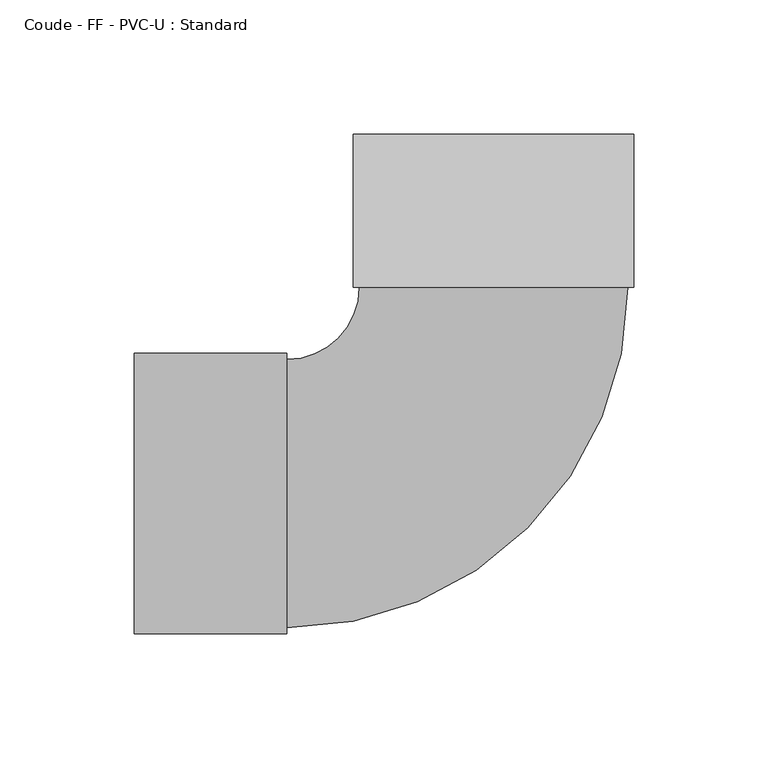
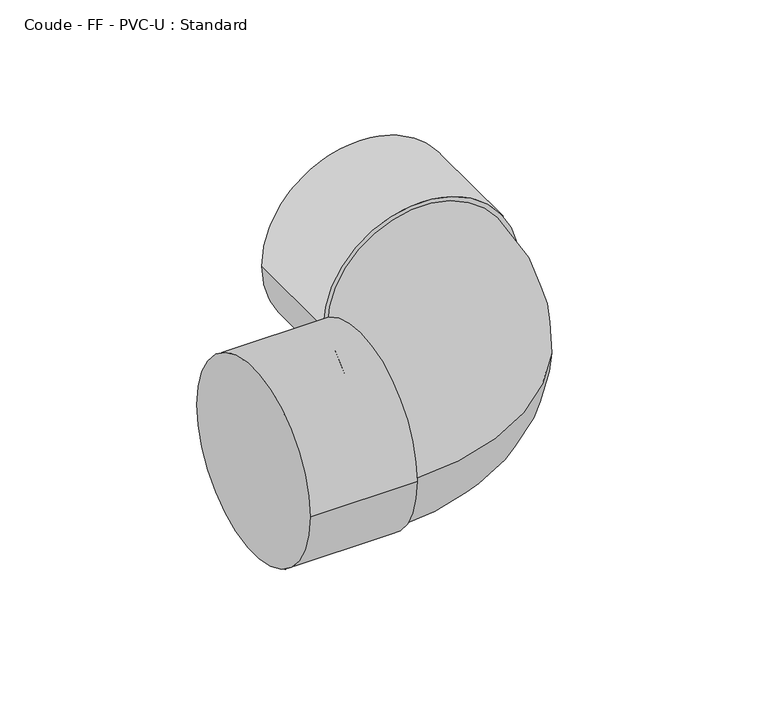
"""IFC4 building model written with IfcOpenShell, lengths in millimetres: pipe fitting geometry, Coude - FF - PVC-U : Standard."""

from ifc_helpers import new_model, si_unit, point, frame, origin, place, context, project, spatial, circle_curve, ellipse_curve, trimmed, source, transform, mapped, element, save
from ifc_brep_helpers import plane_surface, cylinder_surface, revolved_surface, advanced_brep


def coude_ff_pvc_u_standard_f7723ec7(model_context):
    return source(origin(), model_context, "Body", "AdvancedBrep", [
        advanced_brep(
        [(-134.0, -52.3, 0.0), (-134.0, 52.3, 0.0), (-77.0, -52.3, 0.0), (-77.0, 52.3, 0.0), (-77.0, -50.0, 0.0), (-77.0, 50.0, 0.0), (-49.9850196, 77.0097255, 0.0), (50.0149785, 76.9902716, 0.0), (52.3149785, 76.9898242, 0.0), (-52.2850195, 77.0101729, 0.0), (52.3260672, 133.9898231, 0.0), (-52.2739308, 134.0101718, 0.0)],
        [
            (0, 1, circle_curve(frame((-134.0, 0.0, 0.0), z_axis=(-1.0, 0.0, 0.0), x_axis=(0.0, 1.0, 0.0)), 52.3)),
            (1, 0, circle_curve(frame((-134.0, 0.0, 0.0), z_axis=(-1.0, 0.0, 0.0), x_axis=(0.0, 1.0, 0.0)), 52.3)),
            (2, 3, circle_curve(frame((-77.0, 0.0, 0.0), z_axis=(1.0, 0.0, 0.0), x_axis=(0.0, 1.0, 0.0)), 52.3)),
            (3, 2, circle_curve(frame((-77.0, 0.0, 0.0), z_axis=(1.0, 0.0, 0.0), x_axis=(0.0, 1.0, 0.0)), 52.3)),
            (4, 5, circle_curve(frame((-77.0, 0.0, 0.0), z_axis=(-1.0, 0.0, 0.0), x_axis=(0.0, 1.0, 0.0)), 50.0)),
            (5, 4, circle_curve(frame((-77.0, 0.0, 0.0), z_axis=(-1.0, 0.0, 0.0), x_axis=(0.0, 1.0, 0.0)), 50.0)),
            (0, 2),
            (3, 1),
            (6, 5, circle_curve(frame((-77.0, 77.0149809, 0.0), z_axis=(0.0, 0.0, -1.0), x_axis=(0.0, -1.0, 0.0)), 27.0149809)),
            (4, 7, circle_curve(frame((-77.0, 77.0149809, 0.0), z_axis=(0.0, 0.0, 1.0), x_axis=(0.0, -1.0, 0.0)), 127.0149809)),
            (7, 6, circle_curve(frame((0.0149795, 76.9999985, 0.0), z_axis=(-0.00019453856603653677, -0.999999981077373, 0.0), x_axis=(-0.999999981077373, 0.00019453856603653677, 0.0)), 50.0)),
            (6, 7, circle_curve(frame((0.0149795, 76.9999985, 0.0), z_axis=(-0.00019453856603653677, -0.999999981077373, 0.0), x_axis=(-0.999999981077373, 0.00019453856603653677, 0.0)), 50.0)),
            (8, 9, circle_curve(frame((0.0149795, 76.9999985, 0.0), z_axis=(-0.0001945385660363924, -0.9999999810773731, 0.0), x_axis=(-0.9999999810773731, 0.0001945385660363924, 0.0)), 52.3)),
            (9, 8, circle_curve(frame((0.0149795, 76.9999985, 0.0), z_axis=(-0.0001945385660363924, -0.9999999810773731, 0.0), x_axis=(-0.9999999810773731, 0.0001945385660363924, 0.0)), 52.3)),
            (10, 11, circle_curve(frame((0.0260682, 133.9999975, 0.0), z_axis=(0.0001945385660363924, 0.9999999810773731, 0.0), x_axis=(-0.9999999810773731, 0.0001945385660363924, 0.0)), 52.3)),
            (11, 10, circle_curve(frame((0.0260682, 133.9999975, 0.0), z_axis=(0.0001945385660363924, 0.9999999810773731, 0.0), x_axis=(-0.9999999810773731, 0.0001945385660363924, 0.0)), 52.3)),
            (8, 10),
            (11, 9),
        ],
        [
            plane_surface(frame((-134.0, 0.0, 0.0), z_axis=(-1.0, 0.0, 0.0), x_axis=(0.0, 0.0, 1.0))),
            plane_surface(frame((-77.0, 0.0, 0.0), z_axis=(1.0, 0.0, 0.0), x_axis=(0.0, 0.0, 1.0))),
            cylinder_surface(frame((-134.0, 0.0, 0.0), z_axis=(-1.0, 0.0, 0.0), x_axis=(0.0, 1.0, 0.0)), 52.3),
            revolved_surface(trimmed(ellipse_curve(frame((-77.0, 0.0, 0.0), z_axis=(-1.0, 0.0, 0.0), x_axis=(0.0, 1.0, 0.0)), 50.0, 50.0), [point((-77.0, -50.0, 0.0))], [point((-77.0, 50.0, 0.0))], True, "CARTESIAN"), (-77.0, 77.0149809, 0.0), (0.0, 0.0, 1.0)),
            revolved_surface(trimmed(ellipse_curve(frame((-77.0, 0.0, 0.0), z_axis=(-1.0, 0.0, 0.0), x_axis=(0.0, 1.0, 0.0)), 50.0, 50.0), [point((-77.0, 50.0, 0.0))], [point((-77.0, -50.0, 0.0))], True, "CARTESIAN"), (-77.0, 77.0149809, 0.0), (0.0, 0.0, 1.0)),
            plane_surface(frame((0.0149795, 76.9999985, 0.0), z_axis=(-0.00019453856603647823, -0.9999999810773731, 0.0), x_axis=(0.0, 0.0, 1.0))),
            plane_surface(frame((0.0260682, 133.9999975, 0.0), z_axis=(0.00019453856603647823, 0.9999999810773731, 0.0), x_axis=(0.0, 0.0, 1.0))),
            cylinder_surface(frame((0.0149795, 76.9999985, 0.0), z_axis=(-0.0001945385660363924, -0.9999999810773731, 0.0), x_axis=(-0.9999999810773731, 0.0001945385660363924, 0.0)), 52.3),
        ],
        [
            (0, [[1, 2]]),
            (1, [[3, 4], [5, 6]]),
            (2, [[-1, 7, -4, 8]]),
            (2, [[-2, -8, -3, -7]]),
            (3, [[9, -5, 10, 11]]),
            (4, [[-9, 12, -10, -6]]),
            (5, [[13, 14], [-11, -12]]),
            (6, [[15, 16]]),
            (7, [[-13, 17, -16, 18]]),
            (7, [[-14, -18, -15, -17]]),
        ],
    ),
    ])


if __name__ == "__main__":
    model = new_model("IFC4")
    model_context = context("Model", 3, world=origin())
    ifc_project = project(units=[si_unit("LENGTHUNIT", "METRE", prefix="MILLI")], contexts=[model_context])
    site = spatial("IfcSite", under=ifc_project)
    building = spatial("IfcBuilding", under=site)
    placement = place(None, origin())
    coude_ff_pvc_u_standard_shape = coude_ff_pvc_u_standard_f7723ec7(model_context)
    element("IfcPipeFitting", 1, ObjectType="Coude - FF - PVC-U : Standard", at=placement, inside=building, context=model_context, shape_type="MappedRepresentation", body=[
        mapped(coude_ff_pvc_u_standard_shape, transform((0.0, 0.0, 0.0), x_axis=(1.0, 0.0, 0.0), y_axis=(0.0, 1.0, 0.0), z_axis=(0.0, 0.0, 1.0))),
    ])
    save(model, "model.ifc")
